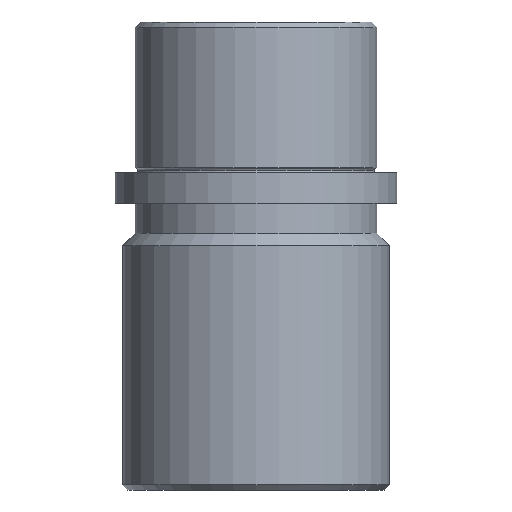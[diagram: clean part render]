
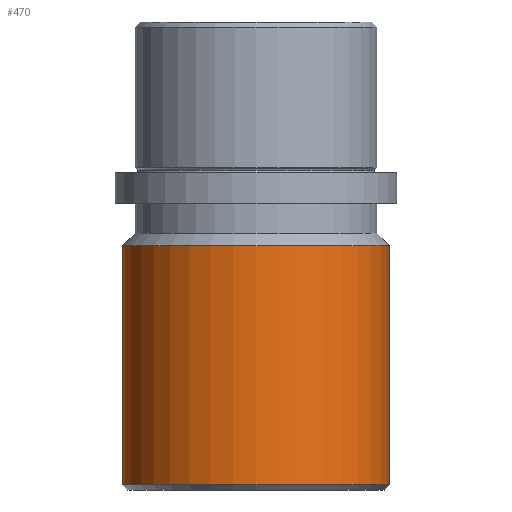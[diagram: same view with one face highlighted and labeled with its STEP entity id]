
A CAD part, front view. The second image highlights one B-rep face of the part: STEP entity #470.
In plain terms, the highlighted cylindrical face has radius 26.5 mm (diameter 53 mm), a partial arc.
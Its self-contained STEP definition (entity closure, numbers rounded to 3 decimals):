
#34 = FACE_OUTER_BOUND ( 'NONE', #701, .T. ) ;
#39 = ORIENTED_EDGE ( 'NONE', *, *, #341, .F. ) ;
#70 = LINE ( 'NONE', #821, #478 ) ;
#79 = DIRECTION ( 'NONE',  ( 0., 0., 1. ) ) ;
#103 = CIRCLE ( 'NONE', #969, 26.5 ) ;
#112 = VERTEX_POINT ( 'NONE', #858 ) ;
#130 = VECTOR ( 'NONE', #234, 1000. ) ;
#160 = LINE ( 'NONE', #646, #130 ) ;
#178 = AXIS2_PLACEMENT_3D ( 'NONE', #867, #581, #399 ) ;
#221 = CYLINDRICAL_SURFACE ( 'NONE', #178, 26.5 ) ;
#234 = DIRECTION ( 'NONE',  ( 0., 0., 1. ) ) ;
#235 = EDGE_CURVE ( 'NONE', #112, #955, #848, .T. ) ;
#278 = AXIS2_PLACEMENT_3D ( 'NONE', #1075, #79, #463 ) ;
#336 = DIRECTION ( 'NONE',  ( 0., 0., 1. ) ) ;
#341 = EDGE_CURVE ( 'NONE', #589, #618, #103, .T. ) ;
#399 = DIRECTION ( 'NONE',  ( 1., 0., 0. ) ) ;
#458 = DIRECTION ( 'NONE',  ( 1., 0., 0. ) ) ;
#463 = DIRECTION ( 'NONE',  ( 1., 0., 0. ) ) ;
#470 = ADVANCED_FACE ( 'NONE', ( #34 ), #221, .T. ) ;
#478 = VECTOR ( 'NONE', #336, 1000. ) ;
#581 = DIRECTION ( 'NONE',  ( 0., 0., 1. ) ) ;
#589 = VERTEX_POINT ( 'NONE', #668 ) ;
#618 = VERTEX_POINT ( 'NONE', #673 ) ;
#646 = CARTESIAN_POINT ( 'NONE',  ( -26.5, 0., 0. ) ) ;
#649 = EDGE_CURVE ( 'NONE', #112, #589, #160, .T. ) ;
#668 = CARTESIAN_POINT ( 'NONE',  ( -26.5, 0., -44.5 ) ) ;
#673 = CARTESIAN_POINT ( 'NONE',  ( 26.5, 0., -44.5 ) ) ;
#701 = EDGE_LOOP ( 'NONE', ( #779, #807, #835, #39 ) ) ;
#779 = ORIENTED_EDGE ( 'NONE', *, *, #649, .F. ) ;
#807 = ORIENTED_EDGE ( 'NONE', *, *, #235, .T. ) ;
#821 = CARTESIAN_POINT ( 'NONE',  ( 26.5, 0., 0. ) ) ;
#832 = DIRECTION ( 'NONE',  ( 0., 0., 1. ) ) ;
#835 = ORIENTED_EDGE ( 'NONE', *, *, #1039, .T. ) ;
#848 = CIRCLE ( 'NONE', #278, 26.5 ) ;
#858 = CARTESIAN_POINT ( 'NONE',  ( -26.5, 0., -92. ) ) ;
#867 = CARTESIAN_POINT ( 'NONE',  ( 0., 0., 0. ) ) ;
#955 = VERTEX_POINT ( 'NONE', #968 ) ;
#968 = CARTESIAN_POINT ( 'NONE',  ( 26.5, 0., -92. ) ) ;
#969 = AXIS2_PLACEMENT_3D ( 'NONE', #982, #832, #458 ) ;
#982 = CARTESIAN_POINT ( 'NONE',  ( 0., 0., -44.5 ) ) ;
#1039 = EDGE_CURVE ( 'NONE', #955, #618, #70, .T. ) ;
#1075 = CARTESIAN_POINT ( 'NONE',  ( 0., 0., -92. ) ) ;
